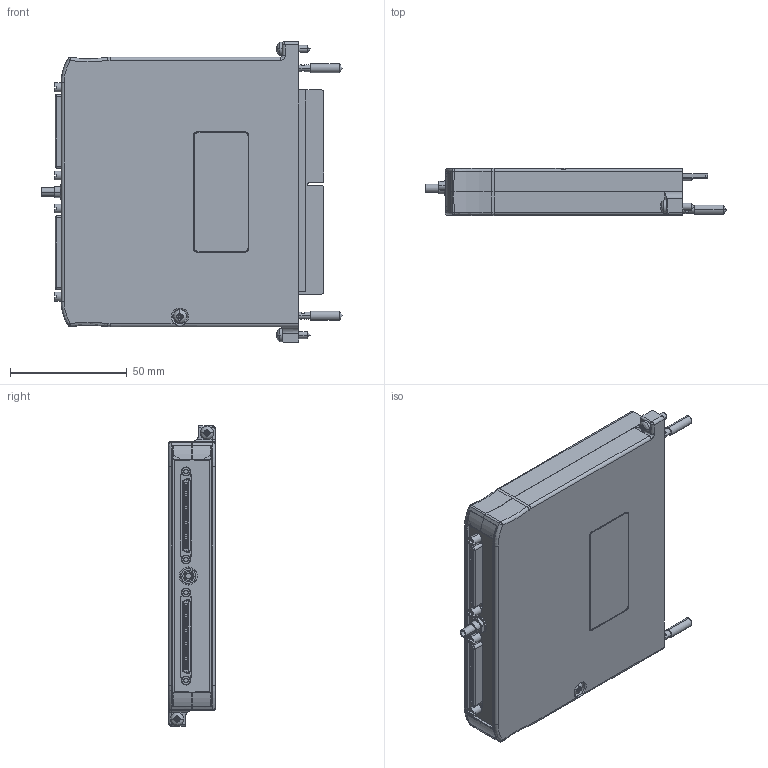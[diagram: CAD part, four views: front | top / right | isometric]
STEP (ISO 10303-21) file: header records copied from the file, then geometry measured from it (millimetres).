
FILE_DESCRIPTION((''),'2;1');
FILE_NAME('CU_NI-5751','2010-06-21T',('jjorden'),(''),'PRO/ENGINEER BY PARAMETRIC TECHNOLOGY CORPORATION, 2006080','PRO/ENGINEER BY PARAMETRIC TECHNOLOGY CORPORATION, 2006080','');
FILE_SCHEMA(('CONFIG_CONTROL_DESIGN'));
Products named in the file (1): CU_NI-5751
Bounding box: 129.03 x 20.02 x 128.65 mm (x, y, z)
Volume: 55788.4 mm3; surface area: 94308.5 mm2
Topology: 3 solids, 5 shells, 4393 faces, 11765 edges, 7590 vertices
Faces by surface type: plane 3357, cylinder 712, cone 140, bspline 106, sphere 40, torus 38
Entity records: 143271 total; most frequent: CARTESIAN_POINT 32307, ORIENTED_EDGE 23450, DIRECTION 21834, EDGE_CURVE 11725, VECTOR 9394, LINE 9394, VERTEX_POINT 7742, AXIS2_PLACEMENT_3D 6220
